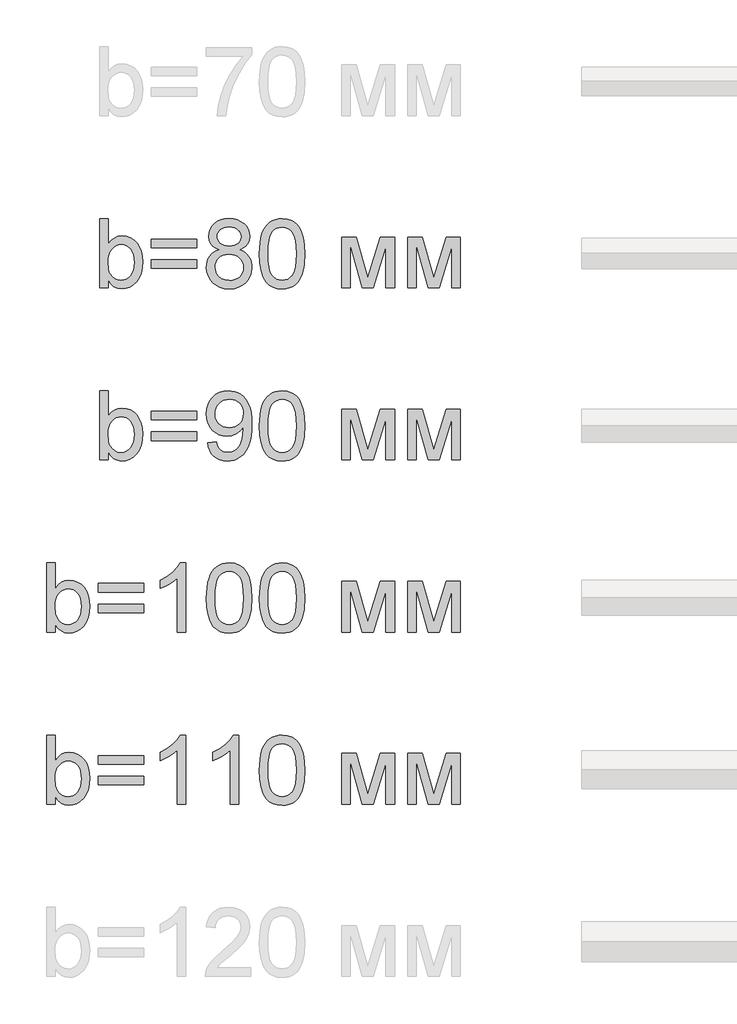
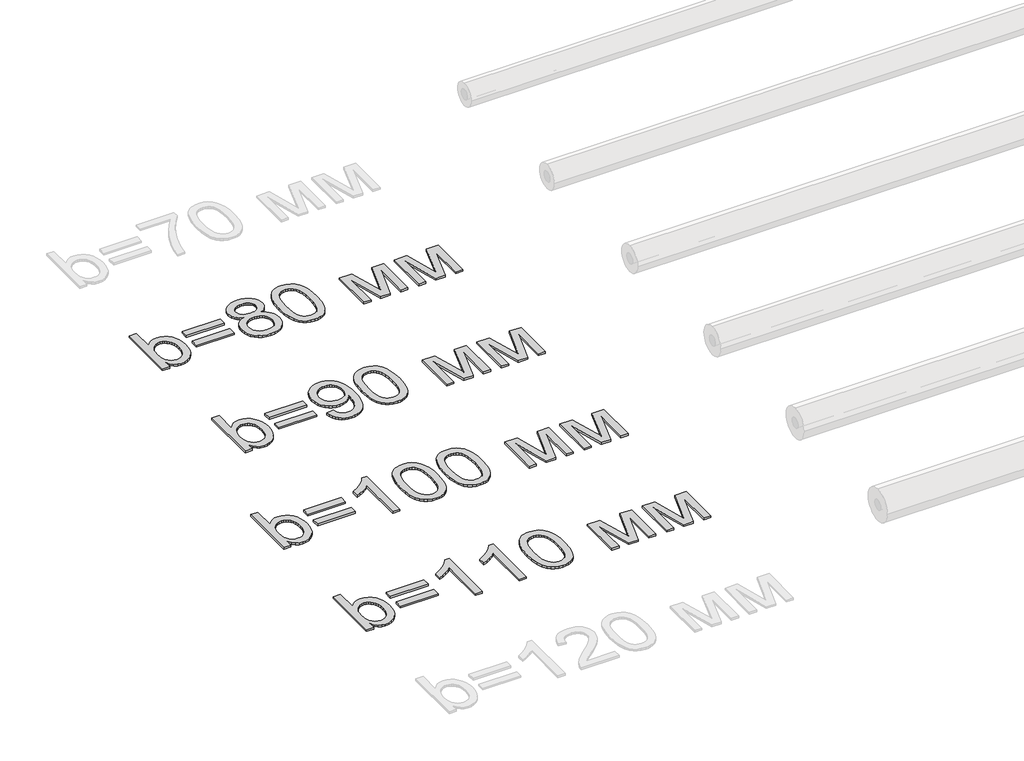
# One storey, part 75 of 86: 4 proxies.
"""IFC4 building model written with IfcOpenShell, lengths in millimetres."""

from ifc_helpers import new_model, si_unit, origin, origin_with_axes, place, context, project, spatial, polyline, outline, extrude, element, save

model = new_model("IFC4")

# Units and contexts
model_context = context("Model", 3, world=origin())
ifc_project = project(units=[si_unit("LENGTHUNIT", "METRE", prefix="MILLI")], contexts=[model_context])

# Site, building, storey
site = spatial("IfcSite", under=ifc_project)
building = spatial("IfcBuilding", under=site)
storey = spatial("IfcBuildingStorey", under=building, Name="Уровень 1", Elevation=0.0)

# Proxies
placement = place(None, origin())
element("IfcBuildingElementProxy", 1, Name="Текст модели 1", ObjectType="Текст модели 1", at=placement, inside=storey, context=model_context, shape_type="SweptSolid", body=[
    extrude(outline(polyline([(47159.6307988, 78669.2937088), (47084.2885662, 78669.2937088), (47084.2885662, 79272.0315697), (47159.6307988, 79272.0315697), (47159.6307988, 79048.5064694), (47184.4076512, 79080.3742473), (47212.3850769, 79103.1369457), (47243.563076, 79116.7945648), (47277.9416484, 79121.3471045), (47316.7531989, 79117.2452202), (47353.4310339, 79104.9395675), (47385.8782258, 79085.2026984), (47411.9978475, 79058.8071653), (47432.4704805, 79026.0104854), (47447.9767066, 78987.0701762), (47457.7439736, 78943.6049185), (47460.9997292, 78897.233393), (47457.6290105, 78843.7249568), (47447.5168541, 78796.6544555), (47430.6632602, 78756.0218892), (47407.0682288, 78721.8272577), (47378.7459136, 78694.7235517), (47347.7104688, 78675.3637617), (47313.9618943, 78663.7478877), (47277.50019, 78659.8759297), (47241.9903805, 78664.8699278), (47210.5088787, 78679.8519221), (47183.0556848, 78704.8219125), (47159.6307988, 78739.7798991), (47159.6307988, 78669.2937088)]), holes=[polyline([(47159.6307988, 78893.7017259), (47164.7811467, 78830.8674811), (47171.2190816, 78807.065516), (47180.2321905, 78788.3403224), (47198.4883345, 78765.0993774), (47219.7059286, 78748.4987024), (47243.8849727, 78738.5382973), (47271.0254669, 78735.2181623), (47293.5582391, 78737.6645776), (47314.5091188, 78745.0038234), (47333.8781058, 78757.2358997), (47351.6652003, 78774.3608066), (47366.5368299, 78796.3325588), (47377.1594225, 78823.105171), (47383.5329781, 78854.6786432), (47385.6574966, 78891.0529755), (47383.6203501, 78928.1170865), (47377.5089104, 78959.9940614), (47367.3231777, 78986.6839001), (47353.0631519, 79008.1866028), (47335.9152524, 79024.7320955), (47317.0658986, 79036.5503046), (47296.5150907, 79043.64123), (47274.2628285, 79046.0048719), (47251.7300563, 79043.5584566), (47230.7791767, 79036.2192108), (47211.4101896, 79023.9871344), (47193.6230951, 79006.8622276), (47178.7514655, 78985.1112046), (47168.1288729, 78959.00078), (47161.7553173, 78928.5309538), (47159.6307988, 78893.7017259)])]), origin_with_axes(), (0.0, 0.0, 1.0), 20.0),
    extrude(outline(polyline([(47931.8886831, 79017.7515346), (47536.3419619, 79017.7515346), (47536.3419619, 79093.0937672), (47931.8886831, 79093.0937672), (47931.8886831, 79017.7515346)])), origin_with_axes(), (0.0, 0.0, 1.0), 20.0),
    extrude(outline(polyline([(47931.8886831, 78838.8137322), (47536.3419619, 78838.8137322), (47536.3419619, 78914.1559648), (47931.8886831, 78914.1559648), (47931.8886831, 78838.8137322)])), origin_with_axes(), (0.0, 0.0, 1.0), 20.0),
    extrude(outline(polyline([(48126.4246821, 79001.2704212), (48086.0864213, 79021.136049), (48070.4284439, 79033.7176132), (48057.7779018, 79048.065011), (48041.0576651, 79081.5054844), (48035.4842529, 79120.9056461), (48038.5192794, 79151.6329897), (48047.6243588, 79179.8035535), (48062.7994911, 79205.4173374), (48084.0446763, 79228.4743415), (48110.3390419, 79247.5306288), (48140.6617153, 79261.1422626), (48175.0126966, 79269.3092429), (48213.3919858, 79272.0315697), (48251.9552159, 79269.2448636), (48286.5637146, 79260.8847452), (48317.2174819, 79246.9512147), (48343.9165177, 79227.4442719), (48365.547979, 79203.9366124), (48380.9990228, 79178.0009317), (48390.2696491, 79149.6372299), (48393.3598578, 79118.8455069), (48387.860022, 79080.7145381), (48371.3605145, 79047.8442818), (48358.9398986, 79033.593453), (48343.6773944, 79021.0808667), (48304.6267206, 79001.2704212), (48329.3897774, 78990.7352006), (48350.9982461, 78977.3764857), (48369.4521267, 78961.1942764), (48384.7514191, 78942.1885728), (48396.7581677, 78920.7824392), (48405.3344168, 78897.3989399), (48410.4801662, 78872.0380749), (48412.195416, 78844.6998441), (48408.7925075, 78807.1206983), (48398.5837822, 78772.6685494), (48381.5692399, 78741.3433976), (48357.7488807, 78713.1452426), (48328.3735034, 78689.8399182), (48294.6939067, 78673.1932579), (48256.7100907, 78663.2052618), (48214.4220554, 78659.8759297), (48172.13402, 78663.2190574), (48134.150204, 78673.2484402), (48100.4706074, 78689.9640784), (48071.09523, 78713.3659718), (48047.2748709, 78741.7618633), (48030.2603286, 78773.4594957), (48020.0516032, 78808.458869), (48016.6486948, 78846.7599833), (48018.4329224, 78875.3444143), (48023.7856055, 78901.5008242), (48032.7067438, 78925.2292128), (48045.1963376, 78946.5295804), (48060.9784752, 78965.0156506), (48079.7772451, 78980.3011475), (48101.5926474, 78992.3860711), (48126.4246821, 79001.2704212)]), holes=[polyline([(48110.8264855, 79118.6983541), (48112.4957501, 79101.4262944), (48117.5035437, 79085.8097037), (48125.8498665, 79071.848582), (48137.5347184, 79059.5429293), (48152.4109466, 79049.4997508), (48170.3313982, 79042.3260519), (48191.2960734, 79038.0218326), (48215.3049722, 79036.5870928), (48238.7206611, 79038.0126355), (48259.2300824, 79042.2892637), (48276.8332358, 79049.4169774), (48291.5301216, 79059.3957765), (48303.1184044, 79071.4439118), (48311.3957493, 79084.7796342), (48316.3621562, 79099.4029435), (48318.0176252, 79115.3138398), (48316.3069739, 79131.8455369), (48311.1750201, 79147.0068736), (48302.6217637, 79160.7978499), (48290.6472048, 79173.2184658), (48275.6192253, 79183.486972), (48257.9057072, 79190.8216193), (48237.5066506, 79195.2224076), (48214.4220554, 79196.6893371), (48191.1581177, 79195.2545973), (48170.662492, 79190.950378), (48152.9351784, 79183.7766791), (48137.9761768, 79173.7335006), (48126.0981868, 79161.6853652), (48117.6139083, 79148.4967957), (48112.5233412, 79134.167792), (48110.8264855, 79118.6983541)]), polyline([(48091.9909274, 78849.4087336), (48095.1363184, 78820.5851793), (48104.5724916, 78792.68133), (48121.9917041, 78768.345936), (48149.086213, 78750.2277477), (48181.533405, 78738.9705587), (48215.0106666, 78735.2181623), (48242.2523283, 78737.1909295), (48266.2934167, 78743.1092311), (48287.1339317, 78752.9730671), (48304.7738734, 78766.7824375), (48318.8085715, 78783.6360314), (48328.8333559, 78802.632538), (48334.8482265, 78823.7719571), (48336.8531834, 78847.0542889), (48334.7838471, 78870.7091012), (48328.5758385, 78892.2301979), (48318.2291574, 78911.617579), (48303.7438038, 78928.8712446), (48285.6256155, 78943.0347014), (48264.3804303, 78953.1514563), (48240.0082481, 78959.2215092), (48212.509069, 78961.2448602), (48185.6674789, 78959.2491003), (48161.9436888, 78953.2618209), (48141.3376985, 78943.2830218), (48123.8495082, 78929.312703), (48109.9113791, 78912.344146), (48099.9555726, 78893.3706321), (48093.9820887, 78872.3921613), (48091.9909274, 78849.4087336)])]), origin_with_axes(), (0.0, 0.0, 1.0), 20.0),
    extrude(outline(polyline([(48478.1198695, 78965.8065969), (48483.6564935, 79062.2836501), (48490.5772736, 79103.1967265), (48500.2663656, 79139.2261694), (48512.682383, 79170.6662845), (48527.7839389, 79197.8113772), (48545.5710333, 79220.6614476), (48566.0436664, 79239.2164957), (48589.2708158, 79253.5730906), (48615.3214596, 79263.8278012), (48644.1955977, 79269.9806276), (48675.8932301, 79272.0315697), (48722.3199379, 79267.1755274), (48763.8906034, 79252.6074004), (48798.6554519, 79228.8974058), (48824.664709, 79196.6157607), (48844.3096075, 79156.0383766), (48859.9813805, 79107.4411651), (48870.2452882, 79045.7289604), (48873.6665907, 78965.8065969), (48868.185149, 78869.8813667), (48861.3333468, 78829.106246), (48851.7408238, 78793.1227884), (48839.4213755, 78761.6688778), (48824.3887975, 78734.4823983), (48806.6430897, 78711.56335), (48786.1842523, 78692.9117329), (48762.9295116, 78678.458569), (48736.7960944, 78668.1348805), (48707.7840006, 78661.9406674), (48675.8932301, 78659.8759297), (48634.3961411, 78663.4627792), (48597.6079415, 78674.2233275), (48565.5286316, 78692.1575748), (48538.1582111, 78717.265521), (48511.8914367, 78762.6529621), (48493.1294549, 78819.2056218), (48481.8722659, 78886.9235001), (48478.1198695, 78965.8065969)]), holes=[polyline([(48553.4621021, 78965.9537497), (48555.6693941, 78900.456959), (48562.29127, 78847.440565), (48573.3277299, 78806.9045676), (48588.7787737, 78778.848967), (48607.467179, 78759.7604899), (48628.2157235, 78746.1258635), (48651.0244072, 78737.9450876), (48675.8932301, 78735.2181623), (48700.762053, 78737.9542847), (48723.5707367, 78746.1626517), (48744.3192812, 78759.8432634), (48763.0076866, 78778.9961198), (48778.4587304, 78807.0977057), (48789.4951902, 78847.624506), (48796.1170661, 78900.5765206), (48798.3243581, 78965.9537497), (48796.1906425, 79029.7168965), (48789.7894958, 79081.79979), (48779.120918, 79122.2024301), (48764.184909, 79150.9248169), (48745.8092033, 79170.9467945), (48724.8215355, 79185.248207), (48701.2219055, 79193.8290546), (48675.0103133, 79196.6893371), (48650.2702492, 79194.1693454), (48627.8478415, 79186.6093704), (48607.7430905, 79174.0094121), (48589.955996, 79156.3694704), (48573.9899175, 79125.0995008), (48562.5855756, 79082.9402242), (48555.7429705, 79029.8916405), (48553.4621021, 78965.9537497)])]), origin_with_axes(), (0.0, 0.0, 1.0), 20.0),
    extrude(outline(polyline([(49193.8710793, 79111.9293254), (49323.5126944, 79111.9293254), (49423.4294443, 78757.5853876), (49531.1452925, 79111.9293254), (49655.3422541, 79111.9293254), (49655.3422541, 78669.2937088), (49580.0000215, 78669.2937088), (49580.0000215, 79025.6977857), (49471.6955621, 78669.2937088), (49372.8088818, 78669.2937088), (49269.2133119, 79042.7675103), (49269.2133119, 78669.2937088), (49193.8710793, 78669.2937088), (49193.8710793, 79111.9293254)])), origin_with_axes(), (0.0, 0.0, 1.0), 20.0),
    extrude(outline(polyline([(49768.355603, 79111.9293254), (49897.9972181, 79111.9293254), (49997.913968, 78757.5853876), (50105.6298162, 79111.9293254), (50229.8267777, 79111.9293254), (50229.8267777, 78669.2937088), (50154.4845451, 78669.2937088), (50154.4845451, 79025.6977857), (50046.1800857, 78669.2937088), (49947.2934054, 78669.2937088), (49843.6978356, 79042.7675103), (49843.6978356, 78669.2937088), (49768.355603, 78669.2937088), (49768.355603, 79111.9293254)])), origin_with_axes(), (0.0, 0.0, 1.0), 20.0),
])
element("IfcBuildingElementProxy", 2, Name="Текст модели 1", ObjectType="Текст модели 1", at=placement, inside=storey, context=model_context, shape_type="SweptSolid", body=[
    extrude(outline(polyline([(47159.6307988, 77169.2937088), (47084.2885662, 77169.2937088), (47084.2885662, 77772.0315697), (47159.6307988, 77772.0315697), (47159.6307988, 77548.5064694), (47184.4076512, 77580.3742473), (47212.3850769, 77603.1369457), (47243.563076, 77616.7945648), (47277.9416484, 77621.3471045), (47316.7531989, 77617.2452202), (47353.4310339, 77604.9395675), (47385.8782258, 77585.2026984), (47411.9978475, 77558.8071653), (47432.4704805, 77526.0104854), (47447.9767066, 77487.0701762), (47457.7439736, 77443.6049185), (47460.9997292, 77397.233393), (47457.6290105, 77343.7249568), (47447.5168541, 77296.6544555), (47430.6632602, 77256.0218892), (47407.0682288, 77221.8272577), (47378.7459136, 77194.7235517), (47347.7104688, 77175.3637617), (47313.9618943, 77163.7478877), (47277.50019, 77159.8759297), (47241.9903805, 77164.8699278), (47210.5088787, 77179.8519221), (47183.0556848, 77204.8219125), (47159.6307988, 77239.7798991), (47159.6307988, 77169.2937088)]), holes=[polyline([(47159.6307988, 77393.7017259), (47164.7811467, 77330.8674811), (47171.2190816, 77307.065516), (47180.2321905, 77288.3403224), (47198.4883345, 77265.0993774), (47219.7059286, 77248.4987024), (47243.8849727, 77238.5382973), (47271.0254669, 77235.2181623), (47293.5582391, 77237.6645776), (47314.5091188, 77245.0038234), (47333.8781058, 77257.2358997), (47351.6652003, 77274.3608066), (47366.5368299, 77296.3325588), (47377.1594225, 77323.105171), (47383.5329781, 77354.6786432), (47385.6574966, 77391.0529755), (47383.6203501, 77428.1170865), (47377.5089104, 77459.9940614), (47367.3231777, 77486.6839001), (47353.0631519, 77508.1866028), (47335.9152524, 77524.7320955), (47317.0658986, 77536.5503046), (47296.5150907, 77543.64123), (47274.2628285, 77546.0048719), (47251.7300563, 77543.5584566), (47230.7791767, 77536.2192108), (47211.4101896, 77523.9871344), (47193.6230951, 77506.8622276), (47178.7514655, 77485.1112046), (47168.1288729, 77459.00078), (47161.7553173, 77428.5309538), (47159.6307988, 77393.7017259)])]), origin_with_axes(), (0.0, 0.0, 1.0), 20.0),
    extrude(outline(polyline([(47931.8886831, 77517.7515346), (47536.3419619, 77517.7515346), (47536.3419619, 77593.0937672), (47931.8886831, 77593.0937672), (47931.8886831, 77517.7515346)])), origin_with_axes(), (0.0, 0.0, 1.0), 20.0),
    extrude(outline(polyline([(47931.8886831, 77338.8137322), (47536.3419619, 77338.8137322), (47536.3419619, 77414.1559648), (47931.8886831, 77414.1559648), (47931.8886831, 77338.8137322)])), origin_with_axes(), (0.0, 0.0, 1.0), 20.0),
    extrude(outline(polyline([(48026.0664738, 77319.978174), (48101.4087064, 77329.3959531), (48114.2845763, 77286.6296712), (48123.7575377, 77270.3646884), (48135.25385, 77257.5118112), (48148.6447546, 77247.7583398), (48163.8014928, 77240.7915746), (48199.41247, 77235.2181623), (48231.3630212, 77238.8050118), (48260.4073048, 77249.5655601), (48284.5403636, 77266.322585), (48301.757241, 77287.898864), (48314.7986577, 77316.2625659), (48326.4053347, 77353.3818592), (48334.572315, 77395.9825942), (48337.2946418, 77440.7906212), (48336.8531834, 77455.505901), (48310.7519558, 77423.6473203), (48276.5941126, 77398.4106154), (48236.844463, 77381.9662902), (48193.9678164, 77376.4848485), (48158.1774968, 77379.8325746), (48125.2658538, 77389.8757531), (48095.2328875, 77406.6143839), (48068.0785977, 77430.048467), (48045.5780152, 77458.9547948), (48029.5061705, 77492.1101596), (48019.8630637, 77529.5145614), (48016.6486948, 77571.1680003), (48020.0194135, 77614.2101938), (48030.1315699, 77652.8378033), (48046.9851638, 77687.0508288), (48070.5801953, 77716.8492704), (48099.2519983, 77740.9915264), (48131.3359068, 77758.2359949), (48166.8319208, 77768.582676), (48205.7400403, 77772.0315697), (48234.4670256, 77770.063401), (48261.934015, 77764.158895), (48288.1410087, 77754.3180516), (48313.0880065, 77740.5408709), (48335.9426754, 77723.1216584), (48355.8726825, 77702.3547198), (48372.8780277, 77678.240055), (48386.9587111, 77650.7776641), (48397.9997695, 77618.3856544), (48405.8862398, 77579.4821334), (48410.6181219, 77534.0671011), (48412.195416, 77482.1405575), (48410.6227204, 77427.6066502), (48405.9046339, 77378.9312638), (48398.0411562, 77336.114398), (48387.0322875, 77299.1560531), (48372.9194145, 77267.154918), (48355.7439238, 77239.209682), (48335.5058156, 77215.3203449), (48312.2050897, 77195.4869069), (48286.3107957, 77179.9071044), (48258.2919833, 77168.778674), (48228.1486523, 77162.1016158), (48195.8808028, 77159.8759297), (48162.0448563, 77162.5016875), (48131.4646655, 77170.3789607), (48104.1402303, 77183.5077494), (48080.0715507, 77201.8880536), (48059.8656321, 77225.0232325), (48044.1294798, 77252.4166456), (48032.8630937, 77284.0682928), (48026.0664738, 77319.978174)]), holes=[polyline([(48336.8531834, 77572.9338339), (48334.8206353, 77599.9363724), (48328.7229913, 77623.9958548), (48318.5602511, 77645.1122814), (48304.332415, 77663.2856519), (48286.7384586, 77677.8997642), (48266.4773577, 77688.3384158), (48243.5491123, 77694.6016068), (48217.9537225, 77696.6893371), (48191.5397953, 77694.4406584), (48167.6274656, 77687.6946223), (48146.2167335, 77676.4512288), (48127.3075989, 77660.710478), (48111.8565551, 77641.3920747), (48100.8200953, 77619.415724), (48094.1982193, 77594.7814259), (48091.9909274, 77567.4891804), (48094.0786577, 77543.0112321), (48100.3418487, 77520.9337139), (48110.7805003, 77501.2566257), (48125.3946125, 77483.9799675), (48143.5771801, 77469.9130797), (48164.7211978, 77459.8653027), (48188.8266656, 77453.8366365), (48215.8935833, 77451.8270811), (48241.1348867, 77453.8366365), (48264.0309424, 77459.8653027), (48284.5817504, 77469.9130797), (48302.7873106, 77483.9799675), (48317.6911299, 77501.5969165), (48328.3367152, 77522.2948773), (48334.7240663, 77546.0738497), (48336.8531834, 77572.9338339)])]), origin_with_axes(), (0.0, 0.0, 1.0), 20.0),
    extrude(outline(polyline([(48478.1198695, 77465.8065969), (48483.6564935, 77562.2836501), (48490.5772736, 77603.1967265), (48500.2663656, 77639.2261694), (48512.682383, 77670.6662845), (48527.7839389, 77697.8113772), (48545.5710333, 77720.6614476), (48566.0436664, 77739.2164957), (48589.2708158, 77753.5730906), (48615.3214596, 77763.8278012), (48644.1955977, 77769.9806276), (48675.8932301, 77772.0315697), (48722.3199379, 77767.1755274), (48763.8906034, 77752.6074004), (48798.6554519, 77728.8974058), (48824.664709, 77696.6157607), (48844.3096075, 77656.0383766), (48859.9813805, 77607.4411651), (48870.2452882, 77545.7289604), (48873.6665907, 77465.8065969), (48868.185149, 77369.8813667), (48861.3333468, 77329.106246), (48851.7408238, 77293.1227884), (48839.4213755, 77261.6688778), (48824.3887975, 77234.4823983), (48806.6430897, 77211.56335), (48786.1842523, 77192.9117329), (48762.9295116, 77178.458569), (48736.7960944, 77168.1348805), (48707.7840006, 77161.9406674), (48675.8932301, 77159.8759297), (48634.3961411, 77163.4627792), (48597.6079415, 77174.2233275), (48565.5286316, 77192.1575748), (48538.1582111, 77217.265521), (48511.8914367, 77262.6529621), (48493.1294549, 77319.2056218), (48481.8722659, 77386.9235001), (48478.1198695, 77465.8065969)]), holes=[polyline([(48553.4621021, 77465.9537497), (48555.6693941, 77400.456959), (48562.29127, 77347.440565), (48573.3277299, 77306.9045676), (48588.7787737, 77278.848967), (48607.467179, 77259.7604899), (48628.2157235, 77246.1258635), (48651.0244072, 77237.9450876), (48675.8932301, 77235.2181623), (48700.762053, 77237.9542847), (48723.5707367, 77246.1626517), (48744.3192812, 77259.8432634), (48763.0076866, 77278.9961198), (48778.4587304, 77307.0977057), (48789.4951902, 77347.624506), (48796.1170661, 77400.5765206), (48798.3243581, 77465.9537497), (48796.1906425, 77529.7168965), (48789.7894958, 77581.79979), (48779.120918, 77622.2024301), (48764.184909, 77650.9248169), (48745.8092033, 77670.9467945), (48724.8215355, 77685.248207), (48701.2219055, 77693.8290546), (48675.0103133, 77696.6893371), (48650.2702492, 77694.1693454), (48627.8478415, 77686.6093704), (48607.7430905, 77674.0094121), (48589.955996, 77656.3694704), (48573.9899175, 77625.0995008), (48562.5855756, 77582.9402242), (48555.7429705, 77529.8916405), (48553.4621021, 77465.9537497)])]), origin_with_axes(), (0.0, 0.0, 1.0), 20.0),
    extrude(outline(polyline([(49193.8710793, 77611.9293254), (49323.5126944, 77611.9293254), (49423.4294443, 77257.5853876), (49531.1452925, 77611.9293254), (49655.3422541, 77611.9293254), (49655.3422541, 77169.2937088), (49580.0000215, 77169.2937088), (49580.0000215, 77525.6977857), (49471.6955621, 77169.2937088), (49372.8088818, 77169.2937088), (49269.2133119, 77542.7675103), (49269.2133119, 77169.2937088), (49193.8710793, 77169.2937088), (49193.8710793, 77611.9293254)])), origin_with_axes(), (0.0, 0.0, 1.0), 20.0),
    extrude(outline(polyline([(49768.355603, 77611.9293254), (49897.9972181, 77611.9293254), (49997.913968, 77257.5853876), (50105.6298162, 77611.9293254), (50229.8267777, 77611.9293254), (50229.8267777, 77169.2937088), (50154.4845451, 77169.2937088), (50154.4845451, 77525.6977857), (50046.1800857, 77169.2937088), (49947.2934054, 77169.2937088), (49843.6978356, 77542.7675103), (49843.6978356, 77169.2937088), (49768.355603, 77169.2937088), (49768.355603, 77611.9293254)])), origin_with_axes(), (0.0, 0.0, 1.0), 20.0),
])
element("IfcBuildingElementProxy", 3, Name="Текст модели 1", ObjectType="Текст модели 1", at=placement, inside=storey, context=model_context, shape_type="SweptSolid", body=[
    extrude(outline(polyline([(46698.159624, 75669.2937088), (46622.8173914, 75669.2937088), (46622.8173914, 76272.0315697), (46698.159624, 76272.0315697), (46698.159624, 76048.5064694), (46722.9364764, 76080.3742473), (46750.9139022, 76103.1369457), (46782.0919012, 76116.7945648), (46816.4704737, 76121.3471045), (46855.2820242, 76117.2452202), (46891.9598591, 76104.9395675), (46924.4070511, 76085.2026984), (46950.5266727, 76058.8071653), (46970.9993058, 76026.0104854), (46986.5055319, 75987.0701762), (46996.2727988, 75943.6049185), (46999.5285545, 75897.233393), (46996.1578357, 75843.7249568), (46986.0456794, 75796.6544555), (46969.1920855, 75756.0218892), (46945.597054, 75721.8272577), (46917.2747389, 75694.7235517), (46886.2392941, 75675.3637617), (46852.4907195, 75663.7478877), (46816.0290153, 75659.8759297), (46780.5192057, 75664.8699278), (46749.037704, 75679.8519221), (46721.5845101, 75704.8219125), (46698.159624, 75739.7798991), (46698.159624, 75669.2937088)]), holes=[polyline([(46698.159624, 75893.7017259), (46703.309972, 75830.8674811), (46709.7479069, 75807.065516), (46718.7610158, 75788.3403224), (46737.0171598, 75765.0993774), (46758.2347539, 75748.4987024), (46782.413798, 75738.5382973), (46809.5542922, 75735.2181623), (46832.0870644, 75737.6645776), (46853.037944, 75745.0038234), (46872.4069311, 75757.2358997), (46890.1940255, 75774.3608066), (46905.0656552, 75796.3325588), (46915.6882478, 75823.105171), (46922.0618034, 75854.6786432), (46924.1863219, 75891.0529755), (46922.1491753, 75928.1170865), (46916.0377357, 75959.9940614), (46905.8520029, 75986.6839001), (46891.5919771, 76008.1866028), (46874.4440776, 76024.7320955), (46855.5947239, 76036.5503046), (46835.0439159, 76043.64123), (46812.7916537, 76046.0048719), (46790.2588815, 76043.5584566), (46769.3080019, 76036.2192108), (46749.9390149, 76023.9871344), (46732.1519204, 76006.8622276), (46717.2802907, 75985.1112046), (46706.6576981, 75959.00078), (46700.2841426, 75928.5309538), (46698.159624, 75893.7017259)])]), origin_with_axes(), (0.0, 0.0, 1.0), 20.0),
    extrude(outline(polyline([(47470.4175083, 76017.7515346), (47074.8707871, 76017.7515346), (47074.8707871, 76093.0937672), (47470.4175083, 76093.0937672), (47470.4175083, 76017.7515346)])), origin_with_axes(), (0.0, 0.0, 1.0), 20.0),
    extrude(outline(polyline([(47470.4175083, 75838.8137322), (47074.8707871, 75838.8137322), (47074.8707871, 75914.1559648), (47470.4175083, 75914.1559648), (47470.4175083, 75838.8137322)])), origin_with_axes(), (0.0, 0.0, 1.0), 20.0),
    extrude(outline(polyline([(47837.7108923, 75669.2937088), (47762.3686597, 75669.2937088), (47762.3686597, 76139.0054402), (47730.9147491, 76113.5664003), (47690.9995526, 76088.1641485), (47649.0977934, 76065.9624701), (47611.6841945, 76050.1251502), (47611.6841945, 76121.3471045), (47670.8580134, 76153.5367791), (47722.1223694, 76191.8332947), (47762.5342066, 76232.5578316), (47789.1504689, 76272.0315697), (47837.7108923, 76272.0315697), (47837.7108923, 75669.2937088)])), origin_with_axes(), (0.0, 0.0, 1.0), 20.0),
    extrude(outline(polyline([(48016.6486948, 75965.8065969), (48022.1853188, 76062.2836501), (48029.1060988, 76103.1967265), (48038.7951909, 76139.2261694), (48051.2112082, 76170.6662845), (48066.3127641, 76197.8113772), (48084.0998586, 76220.6614476), (48104.5724916, 76239.2164957), (48127.7996411, 76253.5730906), (48153.8502849, 76263.8278012), (48182.724423, 76269.9806276), (48214.4220554, 76272.0315697), (48260.8487632, 76267.1755274), (48302.4194286, 76252.6074004), (48337.1842772, 76228.8974058), (48363.1935342, 76196.6157607), (48382.8384328, 76156.0383766), (48398.5102058, 76107.4411651), (48408.7741134, 76045.7289604), (48412.195416, 75965.8065969), (48406.7139742, 75869.8813667), (48399.8621721, 75829.106246), (48390.2696491, 75793.1227884), (48377.9502007, 75761.6688778), (48362.9176227, 75734.4823983), (48345.171915, 75711.56335), (48324.7130775, 75692.9117329), (48301.4583369, 75678.458569), (48275.3249197, 75668.1348805), (48246.3128258, 75661.9406674), (48214.4220554, 75659.8759297), (48172.9249663, 75663.4627792), (48136.1367668, 75674.2233275), (48104.0574568, 75692.1575748), (48076.6870364, 75717.265521), (48050.4202619, 75762.6529621), (48031.6582802, 75819.2056218), (48020.4010911, 75886.9235001), (48016.6486948, 75965.8065969)]), holes=[polyline([(48091.9909274, 75965.9537497), (48094.1982193, 75900.456959), (48100.8200953, 75847.440565), (48111.8565551, 75806.9045676), (48127.3075989, 75778.848967), (48145.9960043, 75759.7604899), (48166.7445488, 75746.1258635), (48189.5532325, 75737.9450876), (48214.4220554, 75735.2181623), (48239.2908782, 75737.9542847), (48262.0995619, 75746.1626517), (48282.8481065, 75759.8432634), (48301.5365118, 75778.9961198), (48316.9875556, 75807.0977057), (48328.0240155, 75847.624506), (48334.6458914, 75900.5765206), (48336.8531834, 75965.9537497), (48334.7194678, 76029.7168965), (48328.3183211, 76081.79979), (48317.6497432, 76122.2024301), (48302.7137342, 76150.9248169), (48284.3380285, 76170.9467945), (48263.3503607, 76185.248207), (48239.7507307, 76193.8290546), (48213.5391386, 76196.6893371), (48188.7990744, 76194.1693454), (48166.3766668, 76186.6093704), (48146.2719158, 76174.0094121), (48128.4848213, 76156.3694704), (48112.5187427, 76125.0995008), (48101.1144009, 76082.9402242), (48094.2717957, 76029.8916405), (48091.9909274, 75965.9537497)])]), origin_with_axes(), (0.0, 0.0, 1.0), 20.0),
    extrude(outline(polyline([(48478.1198695, 75965.8065969), (48483.6564935, 76062.2836501), (48490.5772736, 76103.1967265), (48500.2663656, 76139.2261694), (48512.682383, 76170.6662845), (48527.7839389, 76197.8113772), (48545.5710333, 76220.6614476), (48566.0436664, 76239.2164957), (48589.2708158, 76253.5730906), (48615.3214596, 76263.8278012), (48644.1955977, 76269.9806276), (48675.8932301, 76272.0315697), (48722.3199379, 76267.1755274), (48763.8906034, 76252.6074004), (48798.6554519, 76228.8974058), (48824.664709, 76196.6157607), (48844.3096075, 76156.0383766), (48859.9813805, 76107.4411651), (48870.2452882, 76045.7289604), (48873.6665907, 75965.8065969), (48868.185149, 75869.8813667), (48861.3333468, 75829.106246), (48851.7408238, 75793.1227884), (48839.4213755, 75761.6688778), (48824.3887975, 75734.4823983), (48806.6430897, 75711.56335), (48786.1842523, 75692.9117329), (48762.9295116, 75678.458569), (48736.7960944, 75668.1348805), (48707.7840006, 75661.9406674), (48675.8932301, 75659.8759297), (48634.3961411, 75663.4627792), (48597.6079415, 75674.2233275), (48565.5286316, 75692.1575748), (48538.1582111, 75717.265521), (48511.8914367, 75762.6529621), (48493.1294549, 75819.2056218), (48481.8722659, 75886.9235001), (48478.1198695, 75965.8065969)]), holes=[polyline([(48553.4621021, 75965.9537497), (48555.6693941, 75900.456959), (48562.29127, 75847.440565), (48573.3277299, 75806.9045676), (48588.7787737, 75778.848967), (48607.467179, 75759.7604899), (48628.2157235, 75746.1258635), (48651.0244072, 75737.9450876), (48675.8932301, 75735.2181623), (48700.762053, 75737.9542847), (48723.5707367, 75746.1626517), (48744.3192812, 75759.8432634), (48763.0076866, 75778.9961198), (48778.4587304, 75807.0977057), (48789.4951902, 75847.624506), (48796.1170661, 75900.5765206), (48798.3243581, 75965.9537497), (48796.1906425, 76029.7168965), (48789.7894958, 76081.79979), (48779.120918, 76122.2024301), (48764.184909, 76150.9248169), (48745.8092033, 76170.9467945), (48724.8215355, 76185.248207), (48701.2219055, 76193.8290546), (48675.0103133, 76196.6893371), (48650.2702492, 76194.1693454), (48627.8478415, 76186.6093704), (48607.7430905, 76174.0094121), (48589.955996, 76156.3694704), (48573.9899175, 76125.0995008), (48562.5855756, 76082.9402242), (48555.7429705, 76029.8916405), (48553.4621021, 75965.9537497)])]), origin_with_axes(), (0.0, 0.0, 1.0), 20.0),
    extrude(outline(polyline([(49193.8710793, 76111.9293254), (49323.5126944, 76111.9293254), (49423.4294443, 75757.5853876), (49531.1452925, 76111.9293254), (49655.3422541, 76111.9293254), (49655.3422541, 75669.2937088), (49580.0000215, 75669.2937088), (49580.0000215, 76025.6977857), (49471.6955621, 75669.2937088), (49372.8088818, 75669.2937088), (49269.2133119, 76042.7675103), (49269.2133119, 75669.2937088), (49193.8710793, 75669.2937088), (49193.8710793, 76111.9293254)])), origin_with_axes(), (0.0, 0.0, 1.0), 20.0),
    extrude(outline(polyline([(49768.355603, 76111.9293254), (49897.9972181, 76111.9293254), (49997.913968, 75757.5853876), (50105.6298162, 76111.9293254), (50229.8267777, 76111.9293254), (50229.8267777, 75669.2937088), (50154.4845451, 75669.2937088), (50154.4845451, 76025.6977857), (50046.1800857, 75669.2937088), (49947.2934054, 75669.2937088), (49843.6978356, 76042.7675103), (49843.6978356, 75669.2937088), (49768.355603, 75669.2937088), (49768.355603, 76111.9293254)])), origin_with_axes(), (0.0, 0.0, 1.0), 20.0),
])
element("IfcBuildingElementProxy", 4, Name="Текст модели 1", ObjectType="Текст модели 1", at=placement, inside=storey, context=model_context, shape_type="SweptSolid", body=[
    extrude(outline(polyline([(46698.159624, 74169.2937088), (46622.8173914, 74169.2937088), (46622.8173914, 74772.0315697), (46698.159624, 74772.0315697), (46698.159624, 74548.5064694), (46722.9364764, 74580.3742473), (46750.9139022, 74603.1369457), (46782.0919012, 74616.7945648), (46816.4704737, 74621.3471045), (46855.2820242, 74617.2452202), (46891.9598591, 74604.9395675), (46924.4070511, 74585.2026984), (46950.5266727, 74558.8071653), (46970.9993058, 74526.0104854), (46986.5055319, 74487.0701762), (46996.2727988, 74443.6049185), (46999.5285545, 74397.233393), (46996.1578357, 74343.7249568), (46986.0456794, 74296.6544555), (46969.1920855, 74256.0218892), (46945.597054, 74221.8272577), (46917.2747389, 74194.7235517), (46886.2392941, 74175.3637617), (46852.4907195, 74163.7478877), (46816.0290153, 74159.8759297), (46780.5192057, 74164.8699278), (46749.037704, 74179.8519221), (46721.5845101, 74204.8219125), (46698.159624, 74239.7798991), (46698.159624, 74169.2937088)]), holes=[polyline([(46698.159624, 74393.7017259), (46703.309972, 74330.8674811), (46709.7479069, 74307.065516), (46718.7610158, 74288.3403224), (46737.0171598, 74265.0993774), (46758.2347539, 74248.4987024), (46782.413798, 74238.5382973), (46809.5542922, 74235.2181623), (46832.0870644, 74237.6645776), (46853.037944, 74245.0038234), (46872.4069311, 74257.2358997), (46890.1940255, 74274.3608066), (46905.0656552, 74296.3325588), (46915.6882478, 74323.105171), (46922.0618034, 74354.6786432), (46924.1863219, 74391.0529755), (46922.1491753, 74428.1170865), (46916.0377357, 74459.9940614), (46905.8520029, 74486.6839001), (46891.5919771, 74508.1866028), (46874.4440776, 74524.7320955), (46855.5947239, 74536.5503046), (46835.0439159, 74543.64123), (46812.7916537, 74546.0048719), (46790.2588815, 74543.5584566), (46769.3080019, 74536.2192108), (46749.9390149, 74523.9871344), (46732.1519204, 74506.8622276), (46717.2802907, 74485.1112046), (46706.6576981, 74459.00078), (46700.2841426, 74428.5309538), (46698.159624, 74393.7017259)])]), origin_with_axes(), (0.0, 0.0, 1.0), 20.0),
    extrude(outline(polyline([(47470.4175083, 74517.7515346), (47074.8707871, 74517.7515346), (47074.8707871, 74593.0937672), (47470.4175083, 74593.0937672), (47470.4175083, 74517.7515346)])), origin_with_axes(), (0.0, 0.0, 1.0), 20.0),
    extrude(outline(polyline([(47470.4175083, 74338.8137322), (47074.8707871, 74338.8137322), (47074.8707871, 74414.1559648), (47470.4175083, 74414.1559648), (47470.4175083, 74338.8137322)])), origin_with_axes(), (0.0, 0.0, 1.0), 20.0),
    extrude(outline(polyline([(47837.7108923, 74169.2937088), (47762.3686597, 74169.2937088), (47762.3686597, 74639.0054402), (47730.9147491, 74613.5664003), (47690.9995526, 74588.1641485), (47649.0977934, 74565.9624701), (47611.6841945, 74550.1251502), (47611.6841945, 74621.3471045), (47670.8580134, 74653.5367791), (47722.1223694, 74691.8332947), (47762.5342066, 74732.5578316), (47789.1504689, 74772.0315697), (47837.7108923, 74772.0315697), (47837.7108923, 74169.2937088)])), origin_with_axes(), (0.0, 0.0, 1.0), 20.0),
    extrude(outline(polyline([(48299.1820671, 74169.2937088), (48223.8398344, 74169.2937088), (48223.8398344, 74639.0054402), (48192.3859239, 74613.5664003), (48152.4707274, 74588.1641485), (48110.5689681, 74565.9624701), (48073.1553692, 74550.1251502), (48073.1553692, 74621.3471045), (48132.3291881, 74653.5367791), (48183.5935442, 74691.8332947), (48224.0053813, 74732.5578316), (48250.6216437, 74772.0315697), (48299.1820671, 74772.0315697), (48299.1820671, 74169.2937088)])), origin_with_axes(), (0.0, 0.0, 1.0), 20.0),
    extrude(outline(polyline([(48478.1198695, 74465.8065969), (48483.6564935, 74562.2836501), (48490.5772736, 74603.1967265), (48500.2663656, 74639.2261694), (48512.682383, 74670.6662845), (48527.7839389, 74697.8113772), (48545.5710333, 74720.6614476), (48566.0436664, 74739.2164957), (48589.2708158, 74753.5730906), (48615.3214596, 74763.8278012), (48644.1955977, 74769.9806276), (48675.8932301, 74772.0315697), (48722.3199379, 74767.1755274), (48763.8906034, 74752.6074004), (48798.6554519, 74728.8974058), (48824.664709, 74696.6157607), (48844.3096075, 74656.0383766), (48859.9813805, 74607.4411651), (48870.2452882, 74545.7289604), (48873.6665907, 74465.8065969), (48868.185149, 74369.8813667), (48861.3333468, 74329.106246), (48851.7408238, 74293.1227884), (48839.4213755, 74261.6688778), (48824.3887975, 74234.4823983), (48806.6430897, 74211.56335), (48786.1842523, 74192.9117329), (48762.9295116, 74178.458569), (48736.7960944, 74168.1348805), (48707.7840006, 74161.9406674), (48675.8932301, 74159.8759297), (48634.3961411, 74163.4627792), (48597.6079415, 74174.2233275), (48565.5286316, 74192.1575748), (48538.1582111, 74217.265521), (48511.8914367, 74262.6529621), (48493.1294549, 74319.2056218), (48481.8722659, 74386.9235001), (48478.1198695, 74465.8065969)]), holes=[polyline([(48553.4621021, 74465.9537497), (48555.6693941, 74400.456959), (48562.29127, 74347.440565), (48573.3277299, 74306.9045676), (48588.7787737, 74278.848967), (48607.467179, 74259.7604899), (48628.2157235, 74246.1258635), (48651.0244072, 74237.9450876), (48675.8932301, 74235.2181623), (48700.762053, 74237.9542847), (48723.5707367, 74246.1626517), (48744.3192812, 74259.8432634), (48763.0076866, 74278.9961198), (48778.4587304, 74307.0977057), (48789.4951902, 74347.624506), (48796.1170661, 74400.5765206), (48798.3243581, 74465.9537497), (48796.1906425, 74529.7168965), (48789.7894958, 74581.79979), (48779.120918, 74622.2024301), (48764.184909, 74650.9248169), (48745.8092033, 74670.9467945), (48724.8215355, 74685.248207), (48701.2219055, 74693.8290546), (48675.0103133, 74696.6893371), (48650.2702492, 74694.1693454), (48627.8478415, 74686.6093704), (48607.7430905, 74674.0094121), (48589.955996, 74656.3694704), (48573.9899175, 74625.0995008), (48562.5855756, 74582.9402242), (48555.7429705, 74529.8916405), (48553.4621021, 74465.9537497)])]), origin_with_axes(), (0.0, 0.0, 1.0), 20.0),
    extrude(outline(polyline([(49193.8710793, 74611.9293254), (49323.5126944, 74611.9293254), (49423.4294443, 74257.5853876), (49531.1452925, 74611.9293254), (49655.3422541, 74611.9293254), (49655.3422541, 74169.2937088), (49580.0000215, 74169.2937088), (49580.0000215, 74525.6977857), (49471.6955621, 74169.2937088), (49372.8088818, 74169.2937088), (49269.2133119, 74542.7675103), (49269.2133119, 74169.2937088), (49193.8710793, 74169.2937088), (49193.8710793, 74611.9293254)])), origin_with_axes(), (0.0, 0.0, 1.0), 20.0),
    extrude(outline(polyline([(49768.355603, 74611.9293254), (49897.9972181, 74611.9293254), (49997.913968, 74257.5853876), (50105.6298162, 74611.9293254), (50229.8267777, 74611.9293254), (50229.8267777, 74169.2937088), (50154.4845451, 74169.2937088), (50154.4845451, 74525.6977857), (50046.1800857, 74169.2937088), (49947.2934054, 74169.2937088), (49843.6978356, 74542.7675103), (49843.6978356, 74169.2937088), (49768.355603, 74169.2937088), (49768.355603, 74611.9293254)])), origin_with_axes(), (0.0, 0.0, 1.0), 20.0),
])

save(model, "model.ifc")
